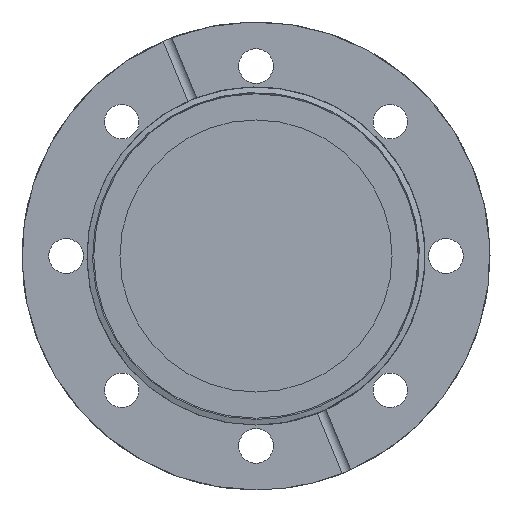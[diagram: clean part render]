
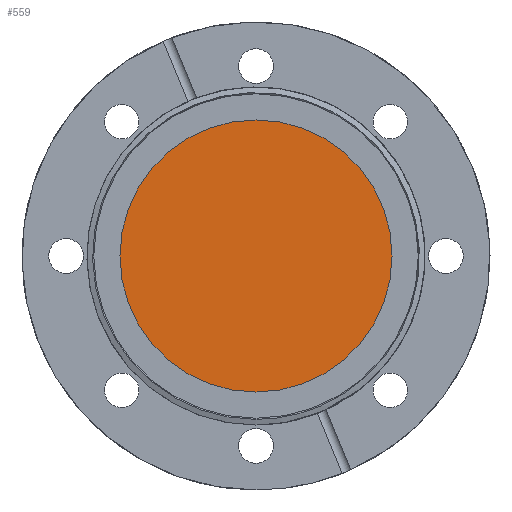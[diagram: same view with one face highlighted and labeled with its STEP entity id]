
A CAD part, left-side view. The second image highlights one B-rep face of the part: STEP entity #559.
In plain terms, the highlighted planar face has unit normal (-1, 0, 0).
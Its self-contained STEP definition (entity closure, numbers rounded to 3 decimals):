
#559 = ADVANCED_FACE( '', ( #1253 ), #1254, .F. );
#1253 = FACE_OUTER_BOUND( '', #2082, .T. );
#1254 = PLANE( '', #2083 );
#2082 = EDGE_LOOP( '', ( #3132 ) );
#2083 = AXIS2_PLACEMENT_3D( '', #3133, #3134, #3135 );
#3132 = ORIENTED_EDGE( '', *, *, #3959, .T. );
#3133 = CARTESIAN_POINT( '', ( 0., 0., 40. ) );
#3134 = DIRECTION( '', ( 1., 0., 0. ) );
#3135 = DIRECTION( '', ( 0., 0., -1. ) );
#3959 = EDGE_CURVE( '', #4554, #4554, #4555, .T. );
#4554 = VERTEX_POINT( '', #5303 );
#4555 = CIRCLE( '', #5304, 40. );
#5303 = CARTESIAN_POINT( '', ( 0., 0., 40. ) );
#5304 = AXIS2_PLACEMENT_3D( '', #5981, #5982, #5983 );
#5981 = CARTESIAN_POINT( '', ( 0., 0., 0. ) );
#5982 = DIRECTION( '', ( -1., 0., 0. ) );
#5983 = DIRECTION( '', ( 0., 0., 1. ) );
